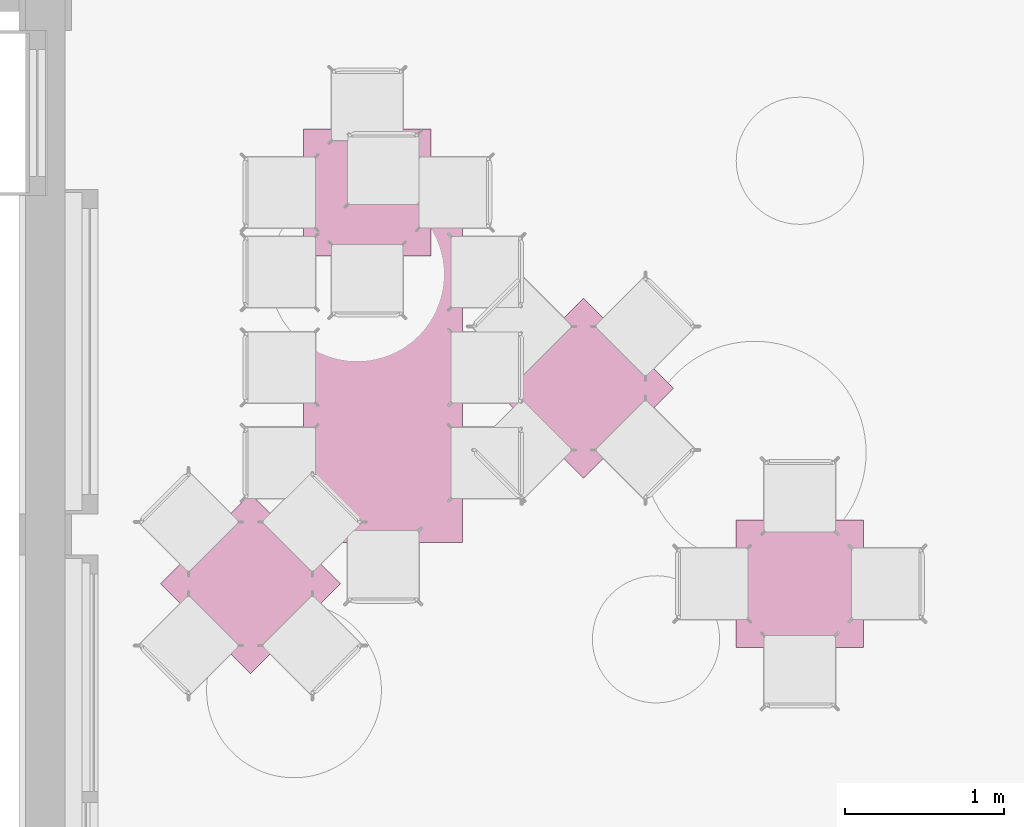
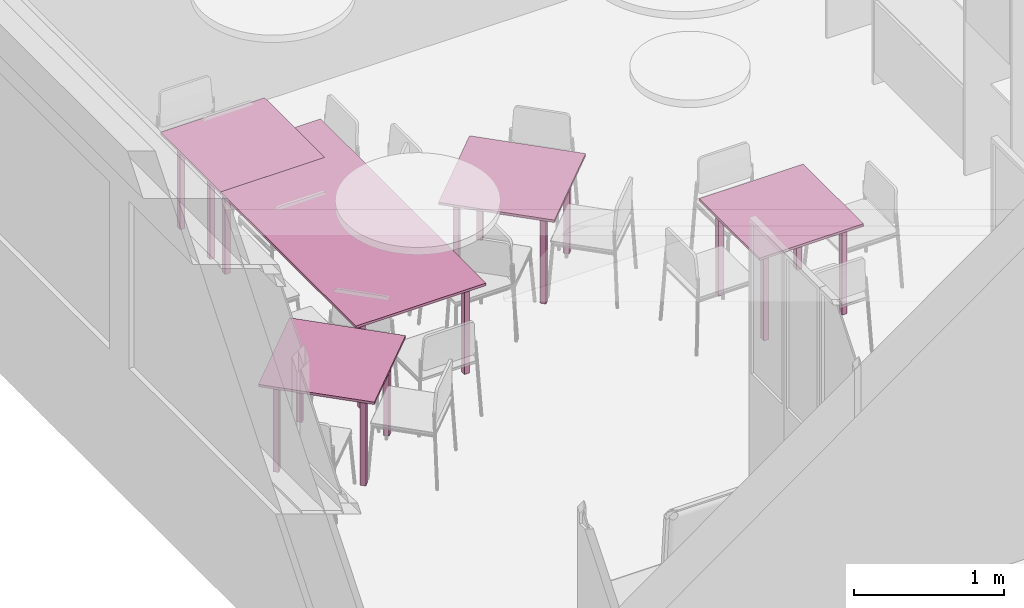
# One storey, part 48 of 64: 5 furnishings.
"""IFC2X3 building model written with IfcOpenShell, lengths in metres."""

from ifc_helpers import new_model, entity, si_unit, converted_unit, derived_unit, direction, frame, frame_2d, origin, origin_2d_with_axis, place, context, subcontext, project, spatial, rectangle, extrude, source, transform, mapped, material, type_object, type_shapes, element, save


model = new_model("IFC2X3")

# Units and contexts
model_context = context("Model", 3, precision=1e-05, world=origin(), true_north=direction((6.123031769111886e-17, 1.0)))
body_context = subcontext(model_context, "Body", "Model", "MODEL_VIEW")
ifc_project = project(units=[si_unit("LENGTHUNIT", "METRE"), si_unit("AREAUNIT", "SQUARE_METRE"), si_unit("VOLUMEUNIT", "CUBIC_METRE"), converted_unit("PLANEANGLEUNIT", "DEGREE", entity("IfcRatioMeasure", 0.017453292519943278), si_unit("PLANEANGLEUNIT", "RADIAN"), dimensions=[0, 0, 0, 0, 0, 0, 0]), si_unit("MASSUNIT", "GRAM", prefix="KILO"), derived_unit("MASSDENSITYUNIT", [(si_unit("MASSUNIT", "GRAM", prefix="KILO"), 1), (si_unit("LENGTHUNIT", "METRE"), -3)]), derived_unit("MOMENTOFINERTIAUNIT", [(si_unit("LENGTHUNIT", "METRE"), 4)]), si_unit("TIMEUNIT", "SECOND"), si_unit("FREQUENCYUNIT", "HERTZ"), si_unit("THERMODYNAMICTEMPERATUREUNIT", "DEGREE_CELSIUS"), derived_unit("THERMALTRANSMITTANCEUNIT", [(si_unit("MASSUNIT", "GRAM", prefix="KILO"), 1), (si_unit("THERMODYNAMICTEMPERATUREUNIT", "KELVIN"), -1), (si_unit("TIMEUNIT", "SECOND"), -3)]), derived_unit("THERMALCONDUCTANCEUNIT", [(si_unit("MASSUNIT", "GRAM", prefix="KILO"), 1), (si_unit("LENGTHUNIT", "METRE"), 1), (si_unit("THERMODYNAMICTEMPERATUREUNIT", "KELVIN"), -1), (si_unit("TIMEUNIT", "SECOND"), -3)]), derived_unit("VOLUMETRICFLOWRATEUNIT", [(si_unit("LENGTHUNIT", "METRE"), 3), (si_unit("TIMEUNIT", "SECOND"), -1)]), derived_unit("MASSFLOWRATEUNIT", [(si_unit("MASSUNIT", "GRAM", prefix="KILO"), 1), (si_unit("TIMEUNIT", "SECOND"), -1)]), derived_unit("ROTATIONALFREQUENCYUNIT", [(si_unit("TIMEUNIT", "SECOND"), -1)]), si_unit("ELECTRICCURRENTUNIT", "AMPERE"), si_unit("ELECTRICVOLTAGEUNIT", "VOLT"), si_unit("POWERUNIT", "WATT"), si_unit("FORCEUNIT", "NEWTON", prefix="KILO"), si_unit("ILLUMINANCEUNIT", "LUX"), si_unit("LUMINOUSFLUXUNIT", "LUMEN"), si_unit("LUMINOUSINTENSITYUNIT", "CANDELA"), derived_unit("USERDEFINED", [(si_unit("MASSUNIT", "GRAM", prefix="KILO"), -1), (si_unit("LENGTHUNIT", "METRE"), -2), (si_unit("TIMEUNIT", "SECOND"), 3), (si_unit("LUMINOUSFLUXUNIT", "LUMEN"), 1)]), derived_unit("USERDEFINED", [(si_unit("MASSUNIT", "GRAM", prefix="KILO"), 1), (si_unit("LENGTHUNIT", "METRE"), 3), (si_unit("TIMEUNIT", "SECOND"), -3), (si_unit("ELECTRICCURRENTUNIT", "AMPERE"), -2)]), derived_unit("USERDEFINED", [(si_unit("LENGTHUNIT", "METRE"), 2), (si_unit("TIMEUNIT", "SECOND"), -2)]), derived_unit("SOUNDPOWERUNIT", [(si_unit("MASSUNIT", "GRAM", prefix="KILO"), 1), (si_unit("LENGTHUNIT", "METRE"), 2), (si_unit("TIMEUNIT", "SECOND"), -3)]), derived_unit("SOUNDPRESSUREUNIT", [(si_unit("MASSUNIT", "GRAM", prefix="KILO"), 1), (si_unit("LENGTHUNIT", "METRE"), -1), (si_unit("TIMEUNIT", "SECOND"), -2)]), derived_unit("LINEARVELOCITYUNIT", [(si_unit("LENGTHUNIT", "METRE"), 1), (si_unit("TIMEUNIT", "SECOND"), -1)]), si_unit("PRESSUREUNIT", "PASCAL"), derived_unit("USERDEFINED", [(si_unit("LENGTHUNIT", "METRE"), -2), (si_unit("MASSUNIT", "GRAM", prefix="KILO"), 1), (si_unit("TIMEUNIT", "SECOND"), -2)]), derived_unit("LINEARFORCEUNIT", [(si_unit("MASSUNIT", "GRAM", prefix="KILO"), 1), (si_unit("LENGTHUNIT", "METRE"), 1), (si_unit("TIMEUNIT", "SECOND"), -2), (si_unit("LENGTHUNIT", "METRE"), -1)]), derived_unit("PLANARFORCEUNIT", [(si_unit("MASSUNIT", "GRAM", prefix="KILO"), 1), (si_unit("LENGTHUNIT", "METRE"), 1), (si_unit("TIMEUNIT", "SECOND"), -2), (si_unit("LENGTHUNIT", "METRE"), -2)]), derived_unit("SPECIFICHEATCAPACITYUNIT", [(si_unit("LENGTHUNIT", "METRE"), 2), (si_unit("TIMEUNIT", "SECOND"), -2), (si_unit("THERMODYNAMICTEMPERATUREUNIT", "KELVIN"), -1)]), derived_unit("VAPORPERMEABILITYUNIT", [(si_unit("TIMEUNIT", "SECOND"), 1), (si_unit("LENGTHUNIT", "METRE"), -1)]), derived_unit("DYNAMICVISCOSITYUNIT", [(si_unit("MASSUNIT", "GRAM", prefix="KILO"), 1), (si_unit("LENGTHUNIT", "METRE"), -1), (si_unit("TIMEUNIT", "SECOND"), -1)]), derived_unit("THERMALEXPANSIONCOEFFICIENTUNIT", [(si_unit("THERMODYNAMICTEMPERATUREUNIT", "KELVIN"), -1)])], contexts=[model_context])

# Site, building, storey
site_placement = place(None, origin())
site = spatial("IfcSite", under=ifc_project, at=site_placement, Name="Default", CompositionType="ELEMENT")
building_placement = place(site_placement, origin())
building = spatial("IfcBuilding", under=site, at=building_placement, CompositionType="ELEMENT")
storey_placement = place(building_placement, origin())
storey = spatial("IfcBuildingStorey", under=building, at=storey_placement, Name="REZ-DE-CHAUSSÉE", CompositionType="ELEMENT", Elevation=0.0)

# Furnishings
ifc_material = material(Name="Peinture - Blanc brillant")
furnishing_element_type_1 = type_object("IfcFurnishingElementType", Name="Symb-0004", material=ifc_material)
shared_shape_1 = source(origin(), body_context, "Body", "SweptSolid", [
    extrude(rectangle(XDim=0.7999999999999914, YDim=0.8, at=frame_2d((-1.7319479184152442e-14, 0.0), x_axis=(1.0, 0.0))), frame((122.87075228, 20.887209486, 0.73)), (0.0, 0.0, 1.0), 0.01999999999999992),
    extrude(rectangle(XDim=0.04000000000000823, YDim=0.03999999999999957, at=frame_2d((-8.663209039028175e-15, 0.0), x_axis=(1.0, 0.0))), frame((123.17075228, 21.187209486, 0.0)), (0.0, 0.0, 1.0), 0.73),
    extrude(rectangle(XDim=0.04000000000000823, YDim=0.03999999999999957, at=frame_2d((-8.663209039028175e-15, 0.0), x_axis=(1.0, 0.0))), frame((122.57075228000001, 21.187209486, 0.0)), (0.0, 0.0, 1.0), 0.73),
    extrude(rectangle(XDim=0.04000000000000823, YDim=0.0400000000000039, at=frame_2d((-8.663209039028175e-15, -2.1649348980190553e-15), x_axis=(1.0, 0.0))), frame((123.17075228, 20.587209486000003, 0.0)), (0.0, 0.0, 1.0), 0.73),
    extrude(rectangle(XDim=0.04000000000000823, YDim=0.0400000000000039, at=frame_2d((-8.663209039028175e-15, -2.1649348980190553e-15), x_axis=(1.0, 0.0))), frame((122.57075228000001, 20.587209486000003, 0.0)), (0.0, 0.0, 1.0), 0.73),
])
type_shapes(furnishing_element_type_1, [shared_shape_1])
furnishing_1_placement = place(storey_placement, origin())
element("IfcFurnishingElement", 1, at=furnishing_1_placement, inside=storey, type_object=furnishing_element_type_1, material=ifc_material, Name="Symb-0004 193880:Symb-0004 193880", ObjectType="Symb-0004 193880:Symb-0004 193880", context=body_context, shape_type="MappedRepresentation", body=[
    mapped(shared_shape_1, transform((0.0, 0.0, 0.0), scale=1.0)),
])
furnishing_element_type_2 = type_object("IfcFurnishingElementType", Name="Symb-0004", material=ifc_material)
shared_shape_2 = source(origin(), body_context, "Body", "SweptSolid", [
    extrude(rectangle(XDim=0.8000000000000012, YDim=0.7999999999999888, at=origin_2d_with_axis()), frame((122.13643770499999, 18.427209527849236, 0.73), z_axis=(0.0, 0.0, 1.0), x_axis=(0.7071067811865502, 0.7071067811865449, 0.0)), (0.0, 0.0, 1.0), 0.019999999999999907),
    extrude(rectangle(XDim=0.039999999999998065, YDim=0.039999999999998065, at=frame_2d((-1.2250617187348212e-14, 1.2250617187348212e-14), x_axis=(1.0, 0.0))), frame((122.136437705, 18.851473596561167, 0.0), z_axis=(0.0, 0.0, 1.0), x_axis=(0.7071067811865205, 0.7071067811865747, 0.0)), (0.0, 0.0, 1.0), 0.7299999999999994),
    extrude(rectangle(XDim=0.040000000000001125, YDim=0.039999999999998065, at=frame_2d((-1.3015630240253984e-14, 1.1483869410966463e-14), x_axis=(1.0, 0.0))), frame((121.7121736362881, 18.427209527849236, 0.0), z_axis=(0.0, 0.0, 1.0), x_axis=(0.7071067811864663, 0.7071067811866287, 0.0)), (0.0, 0.0, 1.0), 0.73),
    extrude(rectangle(XDim=0.039999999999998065, YDim=0.04000000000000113, at=frame_2d((7.667477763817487e-16, 7.650130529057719e-16), x_axis=(1.0, 0.0))), frame((122.56070177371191, 18.427209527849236, 0.0), z_axis=(0.0, 0.0, 1.0), x_axis=(0.7071067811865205, 0.7071067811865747, 0.0)), (0.0, 0.0, 1.0), 0.7299999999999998),
    extrude(rectangle(XDim=0.03999999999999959, YDim=0.03999999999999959, at=frame_2d((-1.1483869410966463e-14, 1.3015630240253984e-14), x_axis=(1.0, 0.0))), frame((122.136437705, 18.002945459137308, 0.0), z_axis=(0.0, 0.0, 1.0), x_axis=(0.7071067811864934, 0.7071067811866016, 0.0)), (0.0, 0.0, 1.0), 0.73),
])
type_shapes(furnishing_element_type_2, [shared_shape_2])
furnishing_2_placement = place(storey_placement, origin())
element("IfcFurnishingElement", 2, at=furnishing_2_placement, inside=storey, type_object=furnishing_element_type_2, material=ifc_material, Name="Symb-0004 226371:Symb-0004 226371", ObjectType="Symb-0004 226371:Symb-0004 226371", context=body_context, shape_type="MappedRepresentation", body=[
    mapped(shared_shape_2, transform((0.0, 0.0, 0.0), scale=1.0)),
])
furnishing_element_type_3 = type_object("IfcFurnishingElementType", Name="Symb-0004", material=ifc_material)
shared_shape_3 = source(origin(), body_context, "Body", "SweptSolid", [
    extrude(rectangle(XDim=0.7999999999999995, YDim=0.800000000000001, at=origin_2d_with_axis()), frame((124.23075225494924, 19.657209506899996, 0.73), z_axis=(0.0, 0.0, 1.0), x_axis=(0.7071067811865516, -0.7071067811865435, 0.0)), (0.0, 0.0, 1.0), 0.01999999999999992),
    extrude(rectangle(XDim=0.039999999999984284, YDim=0.039999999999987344, at=frame_2d((-3.065256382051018e-15, -9.18709552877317e-15), x_axis=(1.0, 0.0))), frame((124.65501632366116, 19.6572095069, 0.0), z_axis=(0.0, 0.0, 1.0), x_axis=(0.707106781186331, -0.7071067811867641, 0.0)), (0.0, 0.0, 1.0), 0.73),
    extrude(rectangle(XDim=0.04000000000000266, YDim=0.03999999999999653, at=frame_2d((-1.5300261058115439e-15, 1.5317608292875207e-15), x_axis=(1.0, 0.0))), frame((124.23075225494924, 20.081473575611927, 0.0), z_axis=(0.0, 0.0, 1.0), x_axis=(0.7071067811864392, -0.7071067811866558, 0.0)), (0.0, 0.0, 1.0), 0.73),
    extrude(rectangle(XDim=0.039999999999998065, YDim=0.03999999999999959, at=frame_2d((-7.667477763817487e-16, 7.650130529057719e-16), x_axis=(1.0, 0.0))), frame((124.23075225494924, 19.232945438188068, 0.0), z_axis=(0.0, 0.0, 1.0), x_axis=(0.7071067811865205, -0.7071067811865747, 0.0)), (0.0, 0.0, 1.0), 0.7299999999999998),
    extrude(rectangle(XDim=0.03999999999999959, YDim=0.04000000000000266, at=origin_2d_with_axis()), frame((123.8064881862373, 19.657209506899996, 0.0), z_axis=(0.0, 0.0, 1.0), x_axis=(0.7071067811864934, -0.7071067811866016, 0.0)), (0.0, 0.0, 1.0), 0.73),
])
type_shapes(furnishing_element_type_3, [shared_shape_3])
furnishing_3_placement = place(storey_placement, origin())
element("IfcFurnishingElement", 3, at=furnishing_3_placement, inside=storey, type_object=furnishing_element_type_3, material=ifc_material, Name="Symb-0004 226586:Symb-0004 226586", ObjectType="Symb-0004 226586:Symb-0004 226586", context=body_context, shape_type="MappedRepresentation", body=[
    mapped(shared_shape_3, transform((0.0, 0.0, 0.0), scale=1.0)),
])
furnishing_element_type_4 = type_object("IfcFurnishingElementType", Name="Symb-0004", material=ifc_material)
shared_shape_4 = source(origin(), body_context, "Body", "SweptSolid", [
    extrude(rectangle(XDim=0.7999999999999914, YDim=0.8, at=frame_2d((-1.7319479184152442e-14, 0.0), x_axis=(1.0, 0.0))), frame((125.59075223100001, 18.4272095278, 0.73)), (0.0, 0.0, 1.0), 0.01999999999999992),
    extrude(rectangle(XDim=0.039999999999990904, YDim=0.03999999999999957, at=origin_2d_with_axis()), frame((125.890752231, 18.7272095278, 0.0)), (0.0, 0.0, 1.0), 0.73),
    extrude(rectangle(XDim=0.04000000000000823, YDim=0.03999999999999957, at=frame_2d((-8.663209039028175e-15, 0.0), x_axis=(1.0, 0.0))), frame((125.29075223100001, 18.7272095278, 0.0)), (0.0, 0.0, 1.0), 0.73),
    extrude(rectangle(XDim=0.039999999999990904, YDim=0.040000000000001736, at=frame_2d((0.0, -1.0824674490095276e-15), x_axis=(1.0, 0.0))), frame((125.890752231, 18.1272095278, 0.0)), (0.0, 0.0, 1.0), 0.73),
    extrude(rectangle(XDim=0.04000000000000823, YDim=0.040000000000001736, at=frame_2d((-8.663209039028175e-15, -1.0824674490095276e-15), x_axis=(1.0, 0.0))), frame((125.29075223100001, 18.1272095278, 0.0)), (0.0, 0.0, 1.0), 0.73),
])
type_shapes(furnishing_element_type_4, [shared_shape_4])
furnishing_4_placement = place(storey_placement, origin())
element("IfcFurnishingElement", 4, at=furnishing_4_placement, inside=storey, type_object=furnishing_element_type_4, material=ifc_material, Name="Symb-0004 226801:Symb-0004 226801", ObjectType="Symb-0004 226801:Symb-0004 226801", context=body_context, shape_type="MappedRepresentation", body=[
    mapped(shared_shape_4, transform((0.0, 0.0, 0.0), scale=1.0)),
])
furnishing_element_type_5 = type_object("IfcFurnishingElementType", Name="Symb-0004", material=ifc_material)
shared_shape_5 = source(origin(), body_context, "Body", "SweptSolid", [
    extrude(rectangle(XDim=0.999999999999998, YDim=2.2, at=frame_2d((8.68749516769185e-15, 1.1102230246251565e-15), x_axis=(1.0, 0.0))), frame((122.97075227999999, 19.787209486, 0.73)), (0.0, 0.0, 1.0), 0.01999999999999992),
    extrude(rectangle(XDim=0.04000000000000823, YDim=0.0400000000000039, at=frame_2d((-8.663209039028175e-15, 2.1649348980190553e-15), x_axis=(1.0, 0.0))), frame((123.37075227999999, 20.787209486, 0.0)), (0.0, 0.0, 1.0), 0.73),
    extrude(rectangle(XDim=0.04000000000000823, YDim=0.0400000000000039, at=frame_2d((-8.663209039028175e-15, 2.1649348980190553e-15), x_axis=(1.0, 0.0))), frame((122.57075228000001, 20.787209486, 0.0)), (0.0, 0.0, 1.0), 0.73),
    extrude(rectangle(XDim=0.04000000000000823, YDim=0.0400000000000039, at=frame_2d((-8.663209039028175e-15, 0.0), x_axis=(1.0, 0.0))), frame((123.37075227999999, 18.787209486, 0.0)), (0.0, 0.0, 1.0), 0.73),
    extrude(rectangle(XDim=0.04000000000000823, YDim=0.0400000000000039, at=frame_2d((-8.663209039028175e-15, 0.0), x_axis=(1.0, 0.0))), frame((122.57075228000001, 18.787209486, 0.0)), (0.0, 0.0, 1.0), 0.73),
])
type_shapes(furnishing_element_type_5, [shared_shape_5])
furnishing_5_placement = place(storey_placement, origin())
element("IfcFurnishingElement", 5, at=furnishing_5_placement, inside=storey, type_object=furnishing_element_type_5, material=ifc_material, Name="Symb-0004 227149:Symb-0004 227149", ObjectType="Symb-0004 227149:Symb-0004 227149", context=body_context, shape_type="MappedRepresentation", body=[
    mapped(shared_shape_5, transform((0.0, 0.0, 0.0), scale=1.0)),
])

save(model, "model.ifc")
